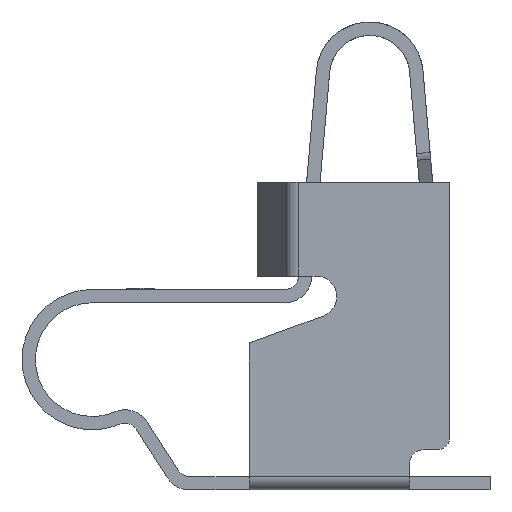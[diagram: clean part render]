
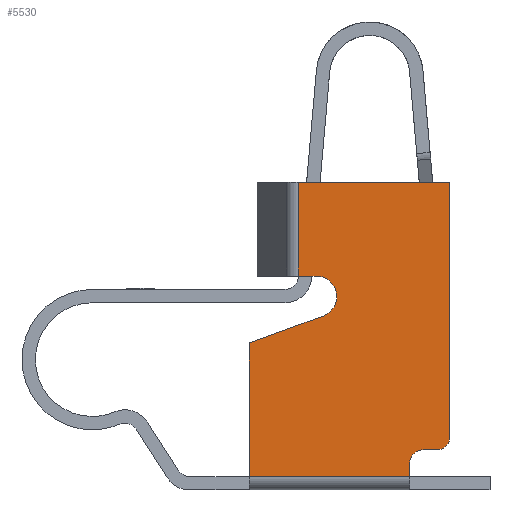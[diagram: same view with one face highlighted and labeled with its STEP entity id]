
A CAD part, front view. The second image highlights one B-rep face of the part: STEP entity #5530.
In plain terms, the highlighted planar face has unit normal (0, -1, 0).
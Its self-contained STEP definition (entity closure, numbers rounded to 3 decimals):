
#64 = CARTESIAN_POINT ( 'NONE',  ( 1.45, -0.75, 2.3 ) ) ;
#68 = DIRECTION ( 'NONE',  ( 0., 0., -1. ) ) ;
#87 = LINE ( 'NONE', #4737, #2878 ) ;
#129 = EDGE_CURVE ( 'NONE', #7460, #9201, #7787, .T. ) ;
#425 = AXIS2_PLACEMENT_3D ( 'NONE', #4060, #1982, #8891 ) ;
#502 = CARTESIAN_POINT ( 'NONE',  ( 1.45, -0.75, 0.3 ) ) ;
#513 = VERTEX_POINT ( 'NONE', #1577 ) ;
#765 = CARTESIAN_POINT ( 'NONE',  ( 0.6, -0.75, 0. ) ) ;
#774 = CARTESIAN_POINT ( 'NONE',  ( 0.315, -0.75, 1.6 ) ) ;
#824 = FACE_OUTER_BOUND ( 'NONE', #14363, .T. ) ;
#826 = ORIENTED_EDGE ( 'NONE', *, *, #10831, .F. ) ;
#958 = CARTESIAN_POINT ( 'NONE',  ( 1.45, -0.75, 0. ) ) ;
#1187 = VERTEX_POINT ( 'NONE', #4930 ) ;
#1216 = LINE ( 'NONE', #5859, #12662 ) ;
#1247 = CARTESIAN_POINT ( 'NONE',  ( 0.315, -0.75, 0. ) ) ;
#1334 = VECTOR ( 'NONE', #4038, 1000. ) ;
#1478 = LINE ( 'NONE', #3999, #4163 ) ;
#1493 = VERTEX_POINT ( 'NONE', #10833 ) ;
#1577 = CARTESIAN_POINT ( 'NONE',  ( 1.15, -0.75, 0.2 ) ) ;
#1618 = DIRECTION ( 'NONE',  ( 1., 0., 0. ) ) ;
#1736 = CARTESIAN_POINT ( 'NONE',  ( -0.05, -0.75, 0.1 ) ) ;
#1982 = DIRECTION ( 'NONE',  ( 0., 1., 0. ) ) ;
#2125 = DIRECTION ( 'NONE',  ( 0., 0., 1. ) ) ;
#2353 = LINE ( 'NONE', #5692, #10083 ) ;
#2599 = LINE ( 'NONE', #7301, #5977 ) ;
#2843 = AXIS2_PLACEMENT_3D ( 'NONE', #12773, #10408, #13744 ) ;
#2878 = VECTOR ( 'NONE', #14015, 1000. ) ;
#2955 = EDGE_CURVE ( 'NONE', #5768, #8437, #6194, .T. ) ;
#3104 = DIRECTION ( 'NONE',  ( 0., 0., 1. ) ) ;
#3147 = VECTOR ( 'NONE', #5884, 1000. ) ;
#3239 = ORIENTED_EDGE ( 'NONE', *, *, #2955, .F. ) ;
#3321 = ORIENTED_EDGE ( 'NONE', *, *, #11766, .T. ) ;
#3356 = CARTESIAN_POINT ( 'NONE',  ( 0.45, -0.75, 1.446 ) ) ;
#3626 = CIRCLE ( 'NONE', #12133, 0.154 ) ;
#3671 = VERTEX_POINT ( 'NONE', #774 ) ;
#3999 = CARTESIAN_POINT ( 'NONE',  ( 0.6, -0.75, 0.1 ) ) ;
#4038 = DIRECTION ( 'NONE',  ( 0.94, 0., 0.342 ) ) ;
#4060 = CARTESIAN_POINT ( 'NONE',  ( 1.25, -0.75, 0.2 ) ) ;
#4096 = DIRECTION ( 'NONE',  ( -1., 0., 0. ) ) ;
#4163 = VECTOR ( 'NONE', #1618, 1000. ) ;
#4189 = LINE ( 'NONE', #8807, #1334 ) ;
#4459 = CARTESIAN_POINT ( 'NONE',  ( 0.45, -0.75, 1.6 ) ) ;
#4737 = CARTESIAN_POINT ( 'NONE',  ( 0.6, -0.75, 2.3 ) ) ;
#4930 = CARTESIAN_POINT ( 'NONE',  ( 1.15, -0.75, 0.1 ) ) ;
#4967 = CARTESIAN_POINT ( 'NONE',  ( 1.45, -0.75, 0.4 ) ) ;
#5530 = ADVANCED_FACE ( 'NONE', ( #824 ), #6534, .F. ) ;
#5664 = CARTESIAN_POINT ( 'NONE',  ( 0.503, -0.75, 1.301 ) ) ;
#5692 = CARTESIAN_POINT ( 'NONE',  ( -0.05, -0.75, 1.6 ) ) ;
#5730 = ORIENTED_EDGE ( 'NONE', *, *, #10678, .F. ) ;
#5759 = ORIENTED_EDGE ( 'NONE', *, *, #11972, .T. ) ;
#5768 = VERTEX_POINT ( 'NONE', #12764 ) ;
#5772 = DIRECTION ( 'NONE',  ( 0., -1., 0. ) ) ;
#5859 = CARTESIAN_POINT ( 'NONE',  ( 1.15, -0.75, 0. ) ) ;
#5884 = DIRECTION ( 'NONE',  ( 0., 0., 1. ) ) ;
#5977 = VECTOR ( 'NONE', #7222, 1000. ) ;
#6101 = EDGE_CURVE ( 'NONE', #12324, #3671, #2353, .T. ) ;
#6194 = LINE ( 'NONE', #502, #12652 ) ;
#6534 = PLANE ( 'NONE',  #10094 ) ;
#6785 = VERTEX_POINT ( 'NONE', #11953 ) ;
#7222 = DIRECTION ( 'NONE',  ( 0., 0., -1. ) ) ;
#7301 = CARTESIAN_POINT ( 'NONE',  ( -0.05, -0.75, 0. ) ) ;
#7326 = LINE ( 'NONE', #1247, #3147 ) ;
#7460 = VERTEX_POINT ( 'NONE', #4967 ) ;
#7787 = LINE ( 'NONE', #958, #12276 ) ;
#8004 = ORIENTED_EDGE ( 'NONE', *, *, #129, .T. ) ;
#8328 = EDGE_CURVE ( 'NONE', #6785, #12446, #4189, .T. ) ;
#8437 = VERTEX_POINT ( 'NONE', #13896 ) ;
#8748 = DIRECTION ( 'NONE',  ( 0., 1., 0. ) ) ;
#8807 = CARTESIAN_POINT ( 'NONE',  ( -0.05, -0.75, 1.1 ) ) ;
#8891 = DIRECTION ( 'NONE',  ( 0., 0., 1. ) ) ;
#9199 = DIRECTION ( 'NONE',  ( 0., 0., 1. ) ) ;
#9201 = VERTEX_POINT ( 'NONE', #64 ) ;
#9852 = EDGE_CURVE ( 'NONE', #12446, #12324, #3626, .T. ) ;
#9896 = ORIENTED_EDGE ( 'NONE', *, *, #12932, .T. ) ;
#10083 = VECTOR ( 'NONE', #11640, 1000. ) ;
#10094 = AXIS2_PLACEMENT_3D ( 'NONE', #765, #8748, #2125 ) ;
#10395 = ORIENTED_EDGE ( 'NONE', *, *, #8328, .F. ) ;
#10408 = DIRECTION ( 'NONE',  ( 0., -1., 0. ) ) ;
#10497 = ORIENTED_EDGE ( 'NONE', *, *, #9852, .F. ) ;
#10635 = CIRCLE ( 'NONE', #2843, 0.1 ) ;
#10678 = EDGE_CURVE ( 'NONE', #3671, #1493, #7326, .T. ) ;
#10831 = EDGE_CURVE ( 'NONE', #513, #1187, #1216, .T. ) ;
#10833 = CARTESIAN_POINT ( 'NONE',  ( 0.315, -0.75, 2.3 ) ) ;
#11046 = ORIENTED_EDGE ( 'NONE', *, *, #11579, .T. ) ;
#11073 = VERTEX_POINT ( 'NONE', #1736 ) ;
#11128 = CIRCLE ( 'NONE', #425, 0.1 ) ;
#11579 = EDGE_CURVE ( 'NONE', #11073, #1187, #1478, .T. ) ;
#11640 = DIRECTION ( 'NONE',  ( -1., 0., 0. ) ) ;
#11766 = EDGE_CURVE ( 'NONE', #9201, #1493, #87, .T. ) ;
#11953 = CARTESIAN_POINT ( 'NONE',  ( -0.05, -0.75, 1.1 ) ) ;
#11972 = EDGE_CURVE ( 'NONE', #513, #8437, #11128, .T. ) ;
#12133 = AXIS2_PLACEMENT_3D ( 'NONE', #3356, #5772, #9199 ) ;
#12276 = VECTOR ( 'NONE', #3104, 1000. ) ;
#12324 = VERTEX_POINT ( 'NONE', #4459 ) ;
#12446 = VERTEX_POINT ( 'NONE', #5664 ) ;
#12652 = VECTOR ( 'NONE', #4096, 1000. ) ;
#12662 = VECTOR ( 'NONE', #68, 1000. ) ;
#12764 = CARTESIAN_POINT ( 'NONE',  ( 1.35, -0.75, 0.3 ) ) ;
#12773 = CARTESIAN_POINT ( 'NONE',  ( 1.35, -0.75, 0.4 ) ) ;
#12932 = EDGE_CURVE ( 'NONE', #6785, #11073, #2599, .T. ) ;
#13359 = EDGE_CURVE ( 'NONE', #5768, #7460, #10635, .T. ) ;
#13744 = DIRECTION ( 'NONE',  ( 0., 0., 1. ) ) ;
#13896 = CARTESIAN_POINT ( 'NONE',  ( 1.25, -0.75, 0.3 ) ) ;
#14015 = DIRECTION ( 'NONE',  ( -1., 0., 0. ) ) ;
#14363 = EDGE_LOOP ( 'NONE', ( #3239, #14649, #8004, #3321, #5730, #14840, #10497, #10395, #9896, #11046, #826, #5759 ) ) ;
#14649 = ORIENTED_EDGE ( 'NONE', *, *, #13359, .T. ) ;
#14840 = ORIENTED_EDGE ( 'NONE', *, *, #6101, .F. ) ;
